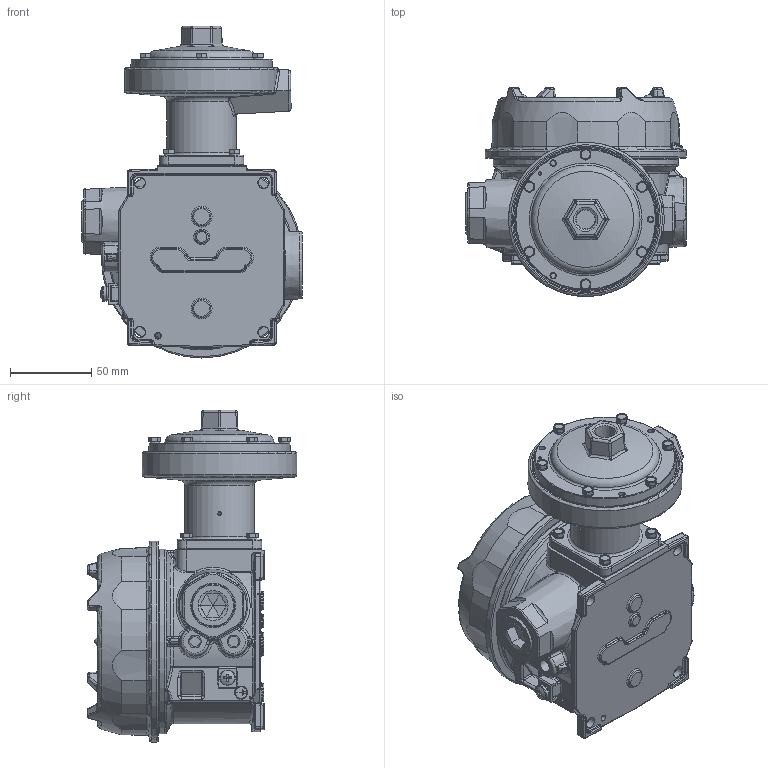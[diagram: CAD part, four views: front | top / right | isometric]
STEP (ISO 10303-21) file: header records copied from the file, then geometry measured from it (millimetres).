
FILE_DESCRIPTION (( 'STEP AP214' ), '1' );
FILE_NAME ('J120-451_453_454_V4.STEP', '2025-03-13T19:08:12', ( '' ), ( '' ), 'SwSTEP 2.0', 'SolidWorks 2023', '' );
FILE_SCHEMA (( 'AUTOMOTIVE_DESIGN' ));
Length unit declared in the file: inch
Products named in the file (1): J120-451_453_454_V4
Bounding box: 135.89 x 129.21 x 204.78 mm (x, y, z)
Surface area: 118347.4 mm2 (no closed solid volume)
Topology: 0 solids, 38 shells, 1184 faces, 3127 edges, 1886 vertices
Faces by surface type: plane 287, bspline 279, cylinder 264, torus 162, cone 157, sphere 35
Full cylindrical faces by diameter (mm): 1.981 x1, 2.032 x1, 3.22 x1, 5.556 x10, 7.366 x1, 7.874 x1, 9.5 x1, 23.812 x1, 42.926 x1, 87.312 x1, 87.63 x1, 90.424 x1, 114.046 x1, 123.952 x1
Entity records: 49004 total; most frequent: CARTESIAN_POINT 23410, ORIENTED_EDGE 5312, DIRECTION 4889, EDGE_CURVE 2970, AXIS2_PLACEMENT_3D 2017, VERTEX_POINT 1861, EDGE_LOOP 1366, FACE_OUTER_BOUND 1236
